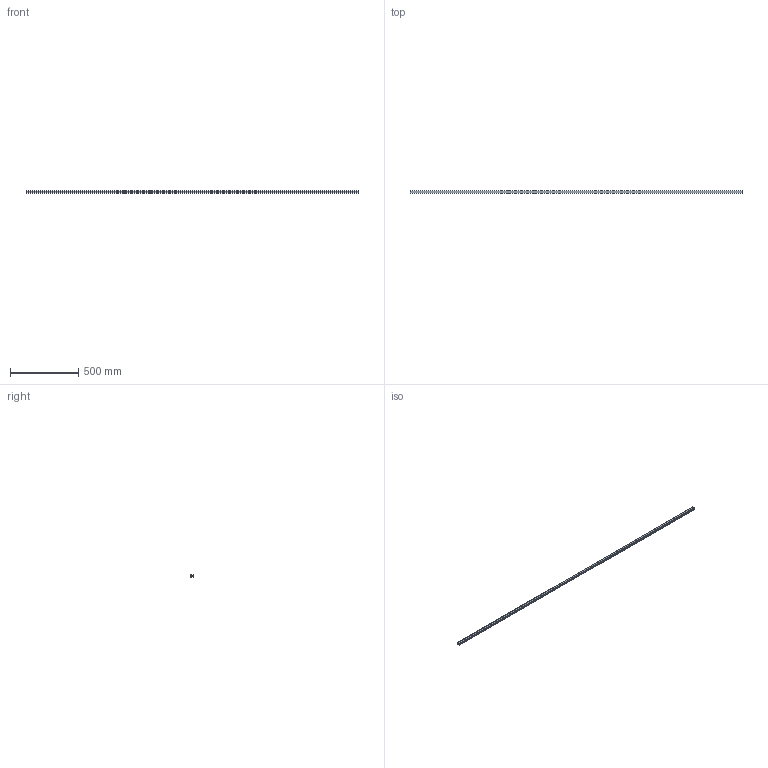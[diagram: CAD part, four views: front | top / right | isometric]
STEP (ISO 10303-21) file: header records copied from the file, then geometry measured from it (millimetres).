
FILE_DESCRIPTION((''),'2;1');
FILE_NAME('GTB13A08','2016-08-16T',('adam.dellomodarme'),(''),'PRO/ENGINEER BY PARAMETRIC TECHNOLOGY CORPORATION, 2012420','PRO/ENGINEER BY PARAMETRIC TECHNOLOGY CORPORATION, 2012420','');
FILE_SCHEMA(('CONFIG_CONTROL_DESIGN'));
Length unit declared in the file: inch
Products named in the file (1): GTB13A08
Bounding box: 2438.4 x 19.3 x 15 mm (x, y, z)
Volume: 307148.8 mm3; surface area: 290257.6 mm2
Topology: 1 solids, 1 shells, 34 faces, 96 edges, 64 vertices
Faces by surface type: cylinder 24, plane 10
Entity records: 1197 total; most frequent: CARTESIAN_POINT 267, ORIENTED_EDGE 192, DIRECTION 180, EDGE_CURVE 96, AXIS2_PLACEMENT_3D 66, VERTEX_POINT 64, VECTOR 48, LINE 48
